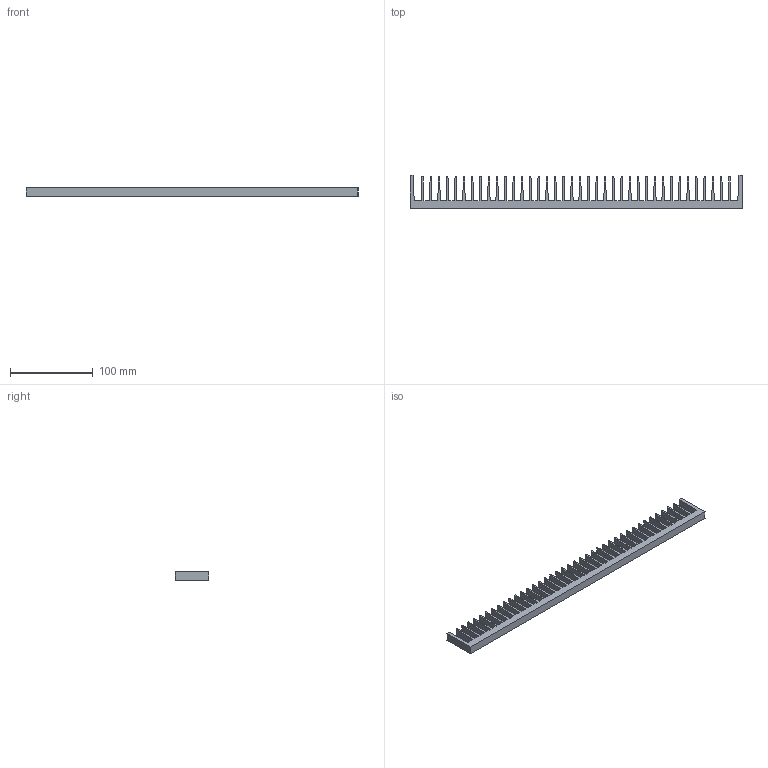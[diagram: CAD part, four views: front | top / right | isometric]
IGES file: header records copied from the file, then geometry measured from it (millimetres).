
Global section: file name: No Iges File Name specified; native system: AutoDesk Inventor R10; preprocessor: AutoDesk Inventor Iges Exporter R10; author: No Author specified; organization: No Organization specified; date: 20060811.134023; units: millimetre
Bounding box: 400 x 40.01 x 10 mm (x, y, z)
Volume: 64763.4 mm3; surface area: 44084.3 mm2
Topology: 1 solids, 1 shells, 246 faces, 732 edges, 488 vertices
Faces by surface type: plane 124, revolution 78, cylinder 44
